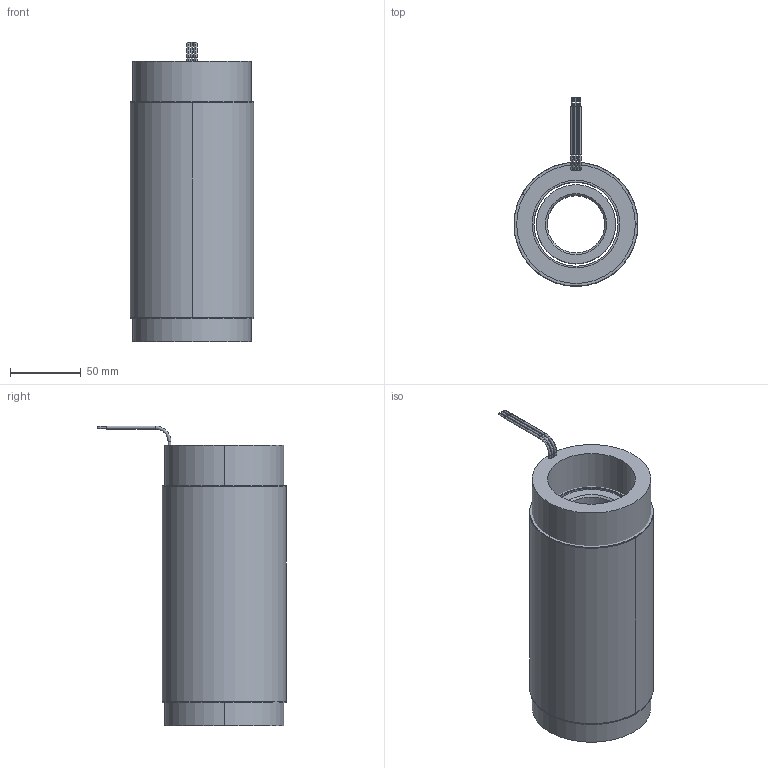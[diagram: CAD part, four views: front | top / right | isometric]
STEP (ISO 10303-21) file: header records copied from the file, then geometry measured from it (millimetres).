
FILE_DESCRIPTION (( 'STEP AP214' ), '1' );
FILE_NAME ('6100253-08.STEP', '2019-11-11T17:22:41', ( '' ), ( '' ), 'SwSTEP 2.0', 'SolidWorks 2016', '' );
FILE_SCHEMA (( 'AUTOMOTIVE_DESIGN' ));
Length unit declared in the file: millimetre
Products named in the file (11): 4400055-00; 4450152-XX_4450152-04; 4150142-XX_4150142-04; 4500514-XX_4500514-08; 6100253-08; 4250338-XX_4250338-04; COMP4500514-XX(COIL)_COMP4500514-04(COIL); 4600517-00
Assembly tree (10 placements, depth 4):
  6100253-08
    4500514-XX_4500514-08
      4450152-XX_4450152-04
        4450152-XX_4450152-04
        4400055-00
        4400055-00
        4600517-00
        4600517-00
      COMP4500514-XX(COIL)_COMP4500514-04(COIL)
    4250338-XX_4250338-04
      4150142-XX_4150142-04
Bounding box: 87.63 x 133.34 x 212.09 mm (x, y, z)
Volume: 1175546.5 mm3; surface area: 248851.6 mm2
Topology: 7 solids, 7 shells, 91 faces, 197 edges, 126 vertices
Faces by surface type: cylinder 61, plane 20, torus 6, cone 4
Entity records: 2971 total; most frequent: DIRECTION 543, CARTESIAN_POINT 430, ORIENTED_EDGE 394, AXIS2_PLACEMENT_3D 239, EDGE_CURVE 197, CIRCLE 132, VERTEX_POINT 126, EDGE_LOOP 111
